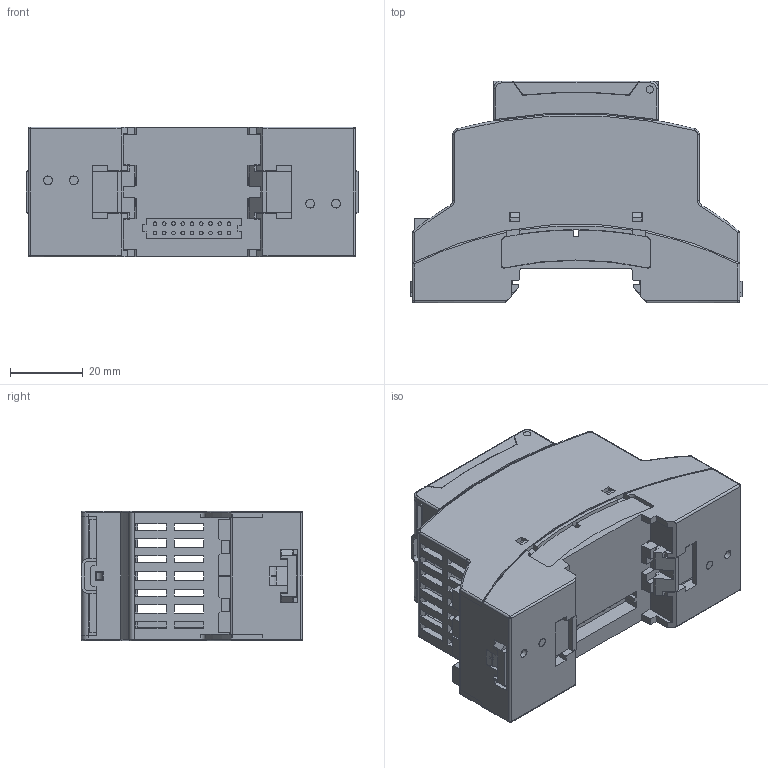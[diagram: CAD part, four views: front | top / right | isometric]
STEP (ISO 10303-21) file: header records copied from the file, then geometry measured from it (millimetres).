
FILE_DESCRIPTION((''),'2;1');
FILE_NAME('14301024758_ASM','2020-10-01T10:11:43',('mperthuy'),(''),'CREO PARAMETRIC BY PTC INC, 2019030','CREO PARAMETRIC BY PTC INC, 2019030','');
FILE_SCHEMA(('AP203_CONFIGURATION_CONTROLLED_3D_DESIGN_OF_MECHANICAL_PARTS_AND_ASSEMBLIES_MIM_LF { 1 0 10303 403 2 1 2 }'));
Products named in the file (15): 14301024807; 14301024808; 14301024806_ASM; 14301024803_ASM; 14301024783; 14301024784; 14301024782_ASM; 14301024778_ASM; 14301024796; 14301024797; 14301024795_ASM; 14301024792_ASM; 14301024772; 14301024760; 14301024758_ASM
Assembly tree (16 placements, depth 4):
  14301024758_ASM
    14301024803_ASM
      14301024806_ASM
        14301024807
        14301024808  x2
    14301024778_ASM
      14301024782_ASM
        14301024783
        14301024784
    14301024792_ASM
      14301024795_ASM
        14301024796
        14301024797
    14301024772
    14301024760  x2
Bounding box: 91 x 60.7 x 35.61 mm (x, y, z)
Volume: 45604.6 mm3; surface area: 61831.5 mm2
Topology: 10 solids, 10 shells, 2161 faces, 6216 edges, 4116 vertices
Faces by surface type: plane 1769, cylinder 305, cone 40, torus 24, extrusion 9, sphere 8, bspline 6
Entity records: 86799 total; most frequent: CARTESIAN_POINT 12238, ORIENTED_EDGE 10974, DIRECTION 9895, PRESENTATION_STYLE_ASSIGNMENT 6073, EDGE_CURVE 5487, STYLED_ITEM 4965, CURVE_STYLE 4886, VECTOR 4657
